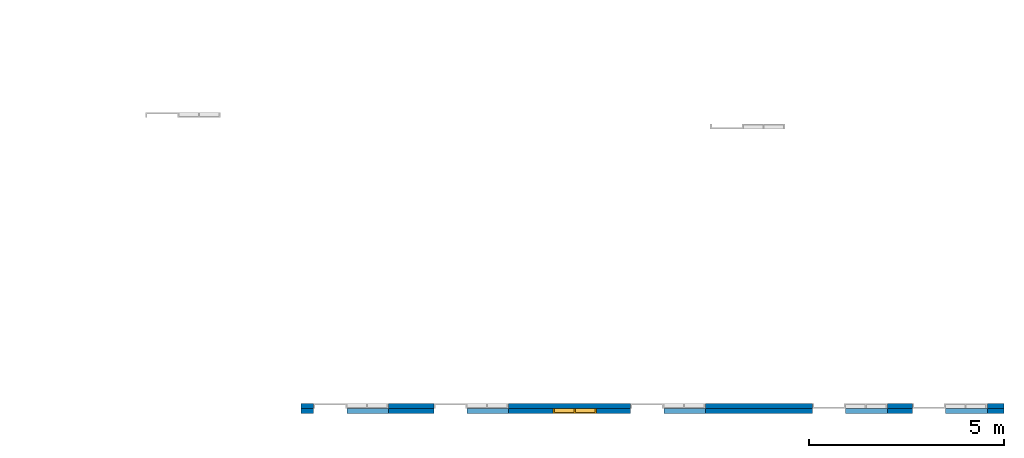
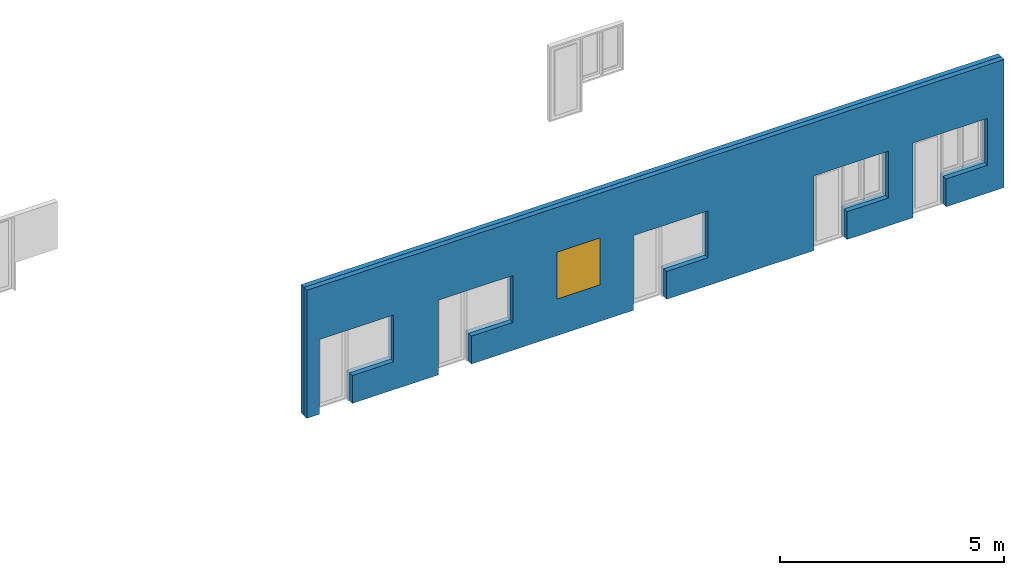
# One storey, part 8 of 10: 2 walls, 1 window, 6 openings, 1 element without a shape of its own.
"""IFC4X3_ADD2 building model written with IfcOpenShell, lengths in millimetres."""

from ifc_helpers import new_model, entity, si_unit, converted_unit, frame, origin_with_axes, origin_2d_with_axis, place, context, subcontext, project, spatial, line, indexed_curve, outline, extrude, polygons, source, transform, mapped, material, layer, layer_set, layer_usage, type_object, type_shapes, element, fill, aggregate, save


model = new_model("IFC4X3_ADD2")

# Units and contexts
model_context = context("Model", 3, precision=1e-05, world=origin_with_axes())
plan_context = context("Plan", 2, precision=1e-05, world=origin_2d_with_axis())
body_context = subcontext(model_context, "Body", "Model", "MODEL_VIEW")
ifc_project = project(units=[si_unit("VOLUMEUNIT", "CUBIC_METRE"), si_unit("LENGTHUNIT", "METRE", prefix="MILLI"), converted_unit("PLANEANGLEUNIT", "degree", entity("IfcReal", 0.0174532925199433), si_unit("PLANEANGLEUNIT", "RADIAN"), dimensions=[0, 0, 0, 0, 0, 0, 0]), si_unit("AREAUNIT", "SQUARE_METRE")], contexts=[model_context, plan_context])

# Site, building, storey
site_placement = place(None, origin_with_axes())
site = spatial("IfcSite", under=ifc_project, at=site_placement, Name="My Site")
building_placement = place(site_placement, origin_with_axes())
building = spatial("IfcBuilding", under=site, at=building_placement, Name="My Building")
storey_placement = place(building_placement, origin_with_axes())
storey = spatial("IfcBuildingStorey", under=building, at=storey_placement, Name="Lantai 1")

# Assembly, openings, walls, window
assembly_placement = place(storey_placement, frame((33483.4632873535, -6034.0371131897, 0.0), z_axis=(0.0, 0.0, 1.0), x_axis=(1.0, 0.0, 0.0)))
assembly = element("IfcElementAssembly", 1, at=assembly_placement, inside=storey, Name="wally")
shared_shape_1 = source(origin_with_axes(), body_context, "Body", "SweptSolid", [
    extrude(outline(indexed_curve([(850.000183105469, 0.0), (0.0, 0.0), (0.0, 2039.99987792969), (1920.0, 2039.99987792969), (1920.0, 759.999938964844), (850.000183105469, 759.999938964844), (850.000183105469, 0.0)])), frame((-9.53674259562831e-07, -600.0, 0.0), z_axis=(0.0, -1.0, 0.0), x_axis=(1.0, 0.0, 0.0)), (0.0, 0.0, -1.0), 1200.0),
])
opening_1_placement = place(assembly_placement, frame((320.392608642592, 130.000114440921, 0.0), z_axis=(0.0, 0.0, 1.0), x_axis=(1.0, 0.0, 0.0)))
element("IfcOpeningElement", 2, at=opening_1_placement, cuts=assembly, Name="Opening", PredefinedType="OPENING", context=body_context, shape_type="MappedRepresentation", body=[
    mapped(shared_shape_1, transform((0.0, 0.0, 0.0), x_axis=(1.0, 0.0, 0.0), y_axis=(0.0, 1.0, 0.0), z_axis=(0.0, 0.0, 1.0), scale=1.0)),
])
shared_shape_2 = source(origin_with_axes(), body_context, "Body", "SweptSolid", [
    extrude(outline(indexed_curve([(849.998352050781, 759.999755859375), (1919.99755859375, 759.999755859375), (1919.99755859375, 2039.99987792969), (0.0, 2039.99987792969), (0.0, 0.0), (849.998352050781, -3.23401396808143e-12), (849.998352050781, 759.999755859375)])), frame((0.0, -600.0, 0.0), z_axis=(0.0, -1.0, 0.0), x_axis=(1.0, 0.0, 0.0)), (0.0, 0.0, -1.0), 1200.0),
])
opening_2_placement = place(assembly_placement, frame((15651.7715454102, 130.000114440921, 0.0), z_axis=(0.0, 0.0, 1.0), x_axis=(1.0, 0.0, 0.0)))
element("IfcOpeningElement", 3, at=opening_2_placement, cuts=assembly, Name="Opening", PredefinedType="OPENING", context=body_context, shape_type="MappedRepresentation", body=[
    mapped(shared_shape_2, transform((0.0, 0.0, 0.0), x_axis=(1.0, 0.0, 0.0), y_axis=(0.0, 1.0, 0.0), z_axis=(0.0, 0.0, 1.0), scale=1.0)),
])
opening_3_placement = place(assembly_placement, frame((13096.4393615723, 130.000114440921, 0.0), z_axis=(0.0, 0.0, 1.0), x_axis=(1.0, 0.0, 0.0)))
element("IfcOpeningElement", 4, at=opening_3_placement, cuts=assembly, Name="Opening", PredefinedType="OPENING", context=body_context, shape_type="MappedRepresentation", body=[
    mapped(shared_shape_2, transform((0.0, 0.0, 0.0), x_axis=(1.0, 0.0, 0.0), y_axis=(0.0, 1.0, 0.0), z_axis=(0.0, 0.0, 1.0), scale=1.0)),
])
opening_4_placement = place(assembly_placement, frame((8437.41226196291, 130.000114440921, 0.0), z_axis=(0.0, 0.0, 1.0), x_axis=(1.0, 0.0, 0.0)))
element("IfcOpeningElement", 5, at=opening_4_placement, cuts=assembly, Name="Opening", PredefinedType="OPENING", context=body_context, shape_type="MappedRepresentation", body=[
    mapped(shared_shape_1, transform((0.0, 0.0, 0.0), x_axis=(1.0, 0.0, 0.0), y_axis=(0.0, 1.0, 0.0), z_axis=(0.0, 0.0, 1.0), scale=1.0)),
])
opening_5_placement = place(assembly_placement, frame((3396.65603637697, 130.000114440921, 0.0), z_axis=(0.0, 0.0, 1.0), x_axis=(1.0, 0.0, 0.0)))
element("IfcOpeningElement", 6, at=opening_5_placement, cuts=assembly, Name="Opening", PredefinedType="OPENING", context=body_context, shape_type="MappedRepresentation", body=[
    mapped(shared_shape_1, transform((0.0, 0.0, 0.0), x_axis=(1.0, 0.0, 0.0), y_axis=(0.0, 1.0, 0.0), z_axis=(0.0, 0.0, 1.0), scale=1.0)),
])
ifc_material_1 = material(Name="plester")
ifc_layer_1 = layer(ifc_material_1, 15.0000009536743, Priority=1)
ifc_material_2 = material(Name="brick", Category="Uncategorised")
ifc_layer_2 = layer(ifc_material_2, 100.0, Priority=4)
ifc_layer_3 = layer(ifc_material_1, 15.0000009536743)
ifc_layer_set = layer_set([ifc_layer_1, ifc_layer_2, ifc_layer_3])
ifc_layer_usage_1 = layer_usage(ifc_layer_set, "AXIS2", "POSITIVE", 0.0)
wall_type = type_object("IfcWallType", Name="WALL-130", PredefinedType="SOLIDWALL", material=ifc_layer_set)
wall_1_placement = place(assembly_placement, frame((-1.4210854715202e-11, 130.000114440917, 0.0), z_axis=(0.0, 0.0, 1.0), x_axis=(1.0, 0.0, 0.0)))
wall_1 = element("IfcWall", 7, at=wall_1_placement, type_object=wall_type, material=ifc_layer_usage_1, Name="Wall", context=body_context, shape_type="SweptSolid", body=[
    extrude(outline(indexed_curve([(0.0, 0.0), (0.0, 130.000001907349), (18000.0, 130.000001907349), (18000.0, 0.0)], segments=[line(1, 2, 3, 4, 1)])), origin_with_axes(), (0.0, 0.0, 1.0), 3500.00023841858),
])
ifc_layer_usage_2 = layer_usage(ifc_layer_set, "AXIS2", "POSITIVE", 0.0)
wall_2_placement = place(assembly_placement, origin_with_axes())
wall_2 = element("IfcWall", 8, at=wall_2_placement, type_object=wall_type, material=ifc_layer_usage_2, Name="Wall", context=body_context, shape_type="SweptSolid", body=[
    extrude(outline(indexed_curve([(0.0, 0.0), (0.0, 130.000001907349), (18000.0, 130.000001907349), (18000.0, 0.0)], segments=[line(1, 2, 3, 4, 1)])), origin_with_axes(), (0.0, 0.0, 1.0), 3500.00023841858),
])
shared_shape_3 = source(origin_with_axes(), body_context, "Body", "SweptSolid", [
    extrude(outline(indexed_curve([(0.0, 0.0), (1109.99645996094, 0.0), (1109.99645996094, 1279.99987792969), (0.0, 1279.99987792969)], segments=[line(1, 2, 3, 4, 1)])), frame((1.96059303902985e-07, -600.0, 0.0), z_axis=(0.0, -1.0, 0.0), x_axis=(1.0, 0.0, 0.0)), (0.0, 0.0, -1.0), 1200.0),
])
opening_6_placement = place(wall_2_placement, frame((6452.23999023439, 2.66453525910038e-12, 1000.0), z_axis=(0.0, 0.0, 1.0), x_axis=(1.0, 0.0, 0.0)))
opening_6 = element("IfcOpeningElement", 9, at=opening_6_placement, cuts=wall_2, Name="Opening", PredefinedType="OPENING", context=body_context, shape_type="MappedRepresentation", body=[
    mapped(shared_shape_3, transform((0.0, 0.0, 0.0), x_axis=(1.0, 0.0, 0.0), y_axis=(0.0, 1.0, 0.0), z_axis=(0.0, 0.0, 1.0), scale=1.0)),
])
window_type = type_object("IfcWindowType", Name="W02", PartitioningType="NOTDEFINED", PredefinedType="WINDOW")
shared_shape_4 = source(origin_with_axes(), body_context, "Body", "Tessellation", [
    polygons([(1109.99682617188, -8.53519231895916e-05, 1239.99938964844), (1109.99682617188, -8.53519231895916e-05, 1280.0), (1069.99975585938, -9.83846111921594e-05, 1239.99938964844), (1069.99975585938, -9.83846111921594e-05, 1280.0), (1109.99682617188, -8.53519231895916e-05, 0.0), (1069.99975585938, -9.83846111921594e-05, 0.0), (569.999877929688, -0.000261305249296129, 1239.99938964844), (569.999877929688, -0.000261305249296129, 1280.0), (539.997314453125, -0.000271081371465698, 1239.99938964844), (539.997314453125, -0.000271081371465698, 1280.0), (539.997314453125, -0.000271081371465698, 39.9999580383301), (569.999877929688, -0.000261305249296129, 39.9999580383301), (39.9973373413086, 1.30327871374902e-05, 1239.99938964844), (39.9973373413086, 1.30327871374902e-05, 1280.0), (0.000238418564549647, 7.76866349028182e-11, 1239.99938964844), (0.000238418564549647, 7.76866349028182e-11, 1280.0), (0.000238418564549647, 7.76866349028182e-11, 39.9999580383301), (39.9973373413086, 1.30327871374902e-05, 39.9999580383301), (0.000238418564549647, 7.76866349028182e-11, 0.0), (39.9973373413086, 1.30327871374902e-05, 0.0), (539.997314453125, -0.000271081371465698, 0.0), (569.999877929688, -0.000261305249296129, 0.0), (1109.99682617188, -8.53519231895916e-05, 39.9999580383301), (1069.99975585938, -9.83846111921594e-05, 39.9999580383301), (1109.99682617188, 129.999984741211, 1280.0), (1109.99682617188, 129.999984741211, 1239.99938964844), (1069.99975585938, 129.999969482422, 1280.0), (1069.99975585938, 129.999969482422, 1239.99938964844), (1069.99975585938, 129.999969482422, 0.0), (1109.99682617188, 129.999984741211, 0.0), (569.999816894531, 129.999801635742, 1280.0), (569.999816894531, 129.999801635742, 1239.99938964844), (539.997253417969, 129.999801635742, 1280.0), (539.997253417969, 129.999801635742, 1239.99938964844), (569.999816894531, 129.999801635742, 39.9999580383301), (539.997253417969, 129.999801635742, 39.9999580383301), (39.9972953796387, 129.999649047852, 1280.0), (39.9972953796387, 129.999649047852, 1239.99938964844), (0.000196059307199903, 129.999633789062, 1280.0), (0.000196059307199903, 129.999633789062, 1239.99938964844), (39.9972953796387, 129.999649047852, 39.9999580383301), (0.000196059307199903, 129.999633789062, 39.9999580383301), (39.9972953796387, 129.999649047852, 0.0), (0.000196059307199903, 129.999633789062, 0.0), (569.999816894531, 129.999801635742, 0.0), (539.997253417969, 129.999801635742, 0.0), (1069.99975585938, 129.999969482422, 39.9999580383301), (1109.99682617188, 129.999984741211, 39.9999580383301)], [[[1, 3, 2]], [[3, 4, 2]], [[4, 3, 7]], [[7, 8, 4]], [[7, 9, 8]], [[9, 10, 8]], [[11, 7, 12]], [[7, 11, 9]], [[10, 9, 13]], [[10, 13, 14]], [[13, 15, 14]], [[15, 16, 14]], [[17, 13, 18]], [[13, 17, 15]], [[19, 18, 20]], [[18, 19, 17]], [[21, 12, 22]], [[12, 21, 11]], [[5, 6, 23]], [[23, 6, 24]], [[24, 1, 23]], [[1, 24, 3]], [[6, 22, 12]], [[24, 6, 12]], [[18, 11, 20]], [[11, 21, 20]], [[25, 27, 26]], [[27, 28, 26]], [[5, 30, 29, 6]], [[28, 27, 31]], [[31, 32, 28]], [[31, 33, 32]], [[33, 34, 32]], [[32, 34, 35]], [[35, 34, 36]], [[34, 33, 37]], [[37, 38, 34]], [[37, 39, 38]], [[39, 40, 38]], [[38, 40, 41]], [[41, 40, 42]], [[41, 42, 43]], [[43, 42, 44]], [[35, 36, 45]], [[45, 36, 46]], [[47, 30, 48]], [[30, 47, 29]], [[26, 28, 48]], [[48, 28, 47]], [[29, 47, 35]], [[35, 45, 29]], [[46, 36, 41]], [[46, 41, 43]], [[7, 32, 12]], [[32, 35, 12]], [[36, 9, 11]], [[9, 36, 34]], [[27, 2, 4]], [[2, 27, 25]], [[13, 9, 34]], [[38, 13, 34]], [[37, 10, 14]], [[10, 37, 33]], [[1, 26, 23]], [[26, 48, 23]], [[16, 15, 40]], [[16, 40, 39]], [[1, 2, 25, 26]], [[48, 5, 23]], [[5, 48, 30]], [[39, 14, 16]], [[14, 39, 37]], [[7, 3, 28]], [[32, 7, 28]], [[47, 3, 24]], [[3, 47, 28]], [[31, 4, 8]], [[4, 31, 27]], [[13, 38, 18]], [[38, 41, 18]], [[22, 6, 29]], [[45, 22, 29]], [[42, 15, 17]], [[15, 42, 40]], [[24, 12, 35]], [[47, 24, 35]], [[21, 22, 45]], [[45, 46, 21]], [[33, 8, 10]], [[8, 33, 31]], [[46, 20, 21]], [[20, 46, 43]], [[19, 20, 43]], [[43, 44, 19]], [[41, 11, 18]], [[11, 41, 36]], [[44, 17, 19]], [[17, 44, 42]]]),
    polygons([(569.999877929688, -0.000261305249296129, 1179.99938964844), (569.999877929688, 29.9999332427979, 1179.99938964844), (569.999877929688, 29.9999332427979, 99.9998397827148), (569.999877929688, -0.000261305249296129, 1239.99938964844), (569.999877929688, -0.000261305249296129, 99.9998397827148), (629.997436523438, -0.000241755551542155, 1179.99938964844), (629.997436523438, -0.000241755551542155, 1239.99938964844), (1009.99835205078, -0.000117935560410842, 1239.99938964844), (629.997436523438, 29.9999504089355, 1239.99938964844), (569.999877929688, 29.9999332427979, 1239.99938964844), (629.997436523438, 29.9999504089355, 1179.99938964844), (629.997436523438, 29.9999504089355, 99.9998397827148), (629.997436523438, -0.000241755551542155, 99.9998397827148), (1009.99835205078, 30.0000762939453, 1179.99938964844), (1009.99835205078, -0.000117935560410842, 1179.99938964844), (1009.99835205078, 30.0000762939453, 1239.99938964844), (1069.99975585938, 30.000093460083, 1179.99938964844), (1069.99975585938, 30.000093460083, 99.9998397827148), (1009.99835205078, 30.0000762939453, 99.9998397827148), (1009.99835205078, 30.0000762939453, 39.9998397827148), (1009.99835205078, -0.000117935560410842, 99.9998397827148), (1069.99975585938, 30.000093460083, 39.9998397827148), (1069.99975585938, -9.83846111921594e-05, 39.9998397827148), (1009.99835205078, -0.000117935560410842, 39.9998397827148), (1069.99975585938, -9.83846111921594e-05, 99.9998397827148), (629.997436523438, -0.000241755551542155, 39.9998397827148), (569.999877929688, -0.000261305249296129, 39.9998397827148), (629.997436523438, 29.9999504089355, 39.9998397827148), (569.999877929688, 29.9999332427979, 39.9998397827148), (1069.99975585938, -9.83846111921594e-05, 1179.99938964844), (1069.99975585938, 30.000093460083, 1239.99938964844), (1069.99975585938, -9.83846111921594e-05, 1239.99938964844)], [[[2, 4, 1]], [[1, 3, 2]], [[5, 3, 1]], [[7, 1, 4]], [[5, 1, 6]], [[1, 7, 6]], [[8, 6, 7]], [[8, 7, 9]], [[7, 10, 9]], [[10, 7, 4]], [[4, 2, 10]], [[11, 10, 2]], [[10, 11, 9]], [[11, 2, 12]], [[13, 11, 12]], [[6, 11, 13]], [[6, 14, 11]], [[14, 9, 11]], [[6, 15, 14]], [[15, 19, 14]], [[9, 14, 16]], [[17, 16, 14]], [[17, 14, 18]], [[18, 14, 19]], [[19, 20, 22]], [[20, 19, 12]], [[19, 21, 12]], [[21, 19, 15]], [[22, 18, 19]], [[22, 24, 23]], [[23, 18, 22]], [[20, 24, 22]], [[24, 25, 23]], [[24, 21, 25]], [[21, 24, 26]], [[26, 24, 20]], [[21, 26, 13]], [[27, 13, 26]], [[28, 27, 26]], [[26, 20, 28]], [[20, 12, 28]], [[3, 28, 12]], [[28, 3, 29]], [[29, 27, 28]], [[27, 29, 5]], [[5, 29, 3]], [[27, 5, 13]], [[25, 18, 23]], [[25, 17, 18]], [[30, 17, 25]], [[25, 21, 30]], [[30, 31, 17]], [[21, 15, 30]], [[31, 30, 32]], [[32, 30, 15]], [[31, 32, 16]], [[15, 8, 32]], [[16, 32, 8]], [[17, 31, 16]], [[21, 13, 12]], [[16, 8, 9]], [[8, 15, 6]], [[5, 6, 13]], [[12, 2, 3]]]),
    polygons([(1009.99835205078, -0.000117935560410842, 1179.99938964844), (629.997436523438, -0.000241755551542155, 1179.99938964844), (629.997436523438, -0.000241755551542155, 99.9998397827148), (629.997436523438, 4.9998574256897, 1179.99938964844), (1009.99835205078, -0.000117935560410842, 99.9998397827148), (1009.99835205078, 4.99998140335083, 1179.99938964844), (1009.99835205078, 4.99998140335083, 99.9998397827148), (629.997436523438, 4.9998574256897, 99.9998397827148)], [[[1, 2, 4]], [[1, 3, 2]], [[5, 3, 1]], [[6, 1, 4]], [[1, 6, 5]], [[5, 6, 7]], [[6, 4, 7]], [[7, 3, 5]], [[3, 7, 8]], [[7, 4, 8]], [[3, 8, 2]], [[2, 8, 4]]]),
    polygons([(40.0011520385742, 1.30340295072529e-05, 1179.99938964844), (40.0011405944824, 29.9997596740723, 1179.99938964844), (40.0011405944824, 29.9997596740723, 99.9998397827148), (40.0011520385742, 1.30340295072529e-05, 1239.99938964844), (40.0011520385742, 1.30340295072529e-05, 99.9998397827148), (99.9987030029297, 3.25837136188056e-05, 1179.99938964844), (99.9987030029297, 3.25837136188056e-05, 1239.99938964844), (479.999755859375, -0.000290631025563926, 1239.99938964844), (99.9986953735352, 29.99977684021, 1239.99938964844), (40.0011405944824, 29.9997596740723, 1239.99938964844), (99.9986953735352, 29.99977684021, 1179.99938964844), (99.9986953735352, 29.99977684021, 99.9998397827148), (99.9987030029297, 3.25837136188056e-05, 99.9998397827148), (479.999755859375, 29.9999027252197, 1179.99938964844), (479.999755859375, -0.000290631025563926, 1179.99938964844), (479.999755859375, 29.9999027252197, 1239.99938964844), (540.001098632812, 29.9999217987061, 1179.99938964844), (540.001098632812, 29.9999217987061, 99.9998397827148), (479.999755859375, 29.9999027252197, 99.9998397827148), (479.999755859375, 29.9999027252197, 39.9998397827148), (479.999755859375, -0.000290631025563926, 99.9998397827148), (540.001098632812, 29.9999217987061, 39.9998397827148), (540.001098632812, -0.000271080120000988, 39.9998397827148), (479.999755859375, -0.000290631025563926, 39.9998397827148), (540.001098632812, -0.000271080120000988, 99.9998397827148), (99.9987030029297, 3.25837136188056e-05, 39.9998397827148), (40.0011520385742, 1.30340295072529e-05, 39.9998397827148), (99.9986953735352, 29.99977684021, 39.9998397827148), (40.0011405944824, 29.9997596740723, 39.9998397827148), (540.001098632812, -0.000271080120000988, 1179.99938964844), (540.001098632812, 29.9999217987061, 1239.99938964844), (540.001098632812, -0.000271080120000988, 1239.99938964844)], [[[2, 4, 1]], [[1, 3, 2]], [[5, 3, 1]], [[7, 1, 4]], [[5, 1, 6]], [[1, 7, 6]], [[7, 8, 6]], [[8, 7, 9]], [[7, 10, 9]], [[10, 7, 4]], [[4, 2, 10]], [[11, 10, 2]], [[10, 11, 9]], [[11, 2, 12]], [[13, 11, 12]], [[6, 11, 13]], [[6, 14, 11]], [[14, 9, 11]], [[6, 15, 14]], [[15, 19, 14]], [[9, 14, 16]], [[17, 16, 14]], [[17, 14, 18]], [[18, 14, 19]], [[19, 20, 22]], [[20, 19, 12]], [[19, 21, 12]], [[21, 19, 15]], [[22, 18, 19]], [[22, 24, 23]], [[23, 18, 22]], [[20, 24, 22]], [[24, 25, 23]], [[24, 21, 25]], [[21, 24, 26]], [[26, 24, 20]], [[28, 27, 26]], [[27, 13, 26]], [[13, 21, 26]], [[26, 20, 28]], [[20, 12, 28]], [[3, 28, 12]], [[28, 3, 29]], [[29, 27, 28]], [[27, 29, 5]], [[5, 29, 3]], [[27, 5, 13]], [[25, 18, 23]], [[25, 17, 18]], [[30, 17, 25]], [[25, 21, 30]], [[30, 31, 17]], [[21, 15, 30]], [[31, 30, 32]], [[32, 30, 15]], [[31, 32, 16]], [[15, 8, 32]], [[16, 32, 8]], [[17, 31, 16]], [[21, 13, 12]], [[16, 8, 9]], [[8, 15, 6]], [[5, 6, 13]], [[12, 2, 3]]]),
    polygons([(99.9987030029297, 3.25837136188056e-05, 1179.99938964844), (99.9987030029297, 3.25837136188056e-05, 99.9998397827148), (479.999755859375, -0.000290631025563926, 1179.99938964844), (99.9987030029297, 4.99968481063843, 1179.99938964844), (99.9987030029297, 4.99968481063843, 99.9998397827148), (479.999755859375, 4.99980878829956, 99.9998397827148), (479.999755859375, -0.000290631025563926, 99.9998397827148), (479.999755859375, 4.99980878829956, 1179.99938964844)], [[[2, 5, 1]], [[1, 3, 2]], [[3, 1, 4]], [[1, 5, 4]], [[6, 4, 5]], [[2, 6, 5]], [[6, 2, 7]], [[7, 8, 6]], [[8, 4, 6]], [[3, 8, 7]], [[8, 3, 4]], [[3, 7, 2]]]),
])
type_shapes(window_type, [shared_shape_4])
window_placement = place(assembly_placement, frame((6452.23999023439, 2.66453525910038e-12, 1000.0), z_axis=(0.0, 0.0, 1.0), x_axis=(1.0, 0.0, 0.0)))
window = element("IfcWindow", 10, at=window_placement, type_object=window_type, Name="Window", context=body_context, shape_type="MappedRepresentation", body=[
    mapped(shared_shape_4, transform((0.0, 0.0, 0.0), x_axis=(1.0, 0.0, 0.0), y_axis=(0.0, 1.0, 0.0), z_axis=(0.0, 0.0, 1.0), scale=1.0)),
])
fill(opening_6, window)
aggregate(assembly, [wall_1, wall_2, window])

save(model, "model.ifc")
